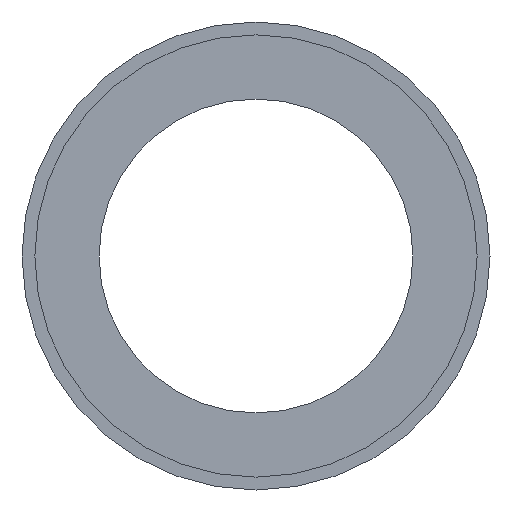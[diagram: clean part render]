
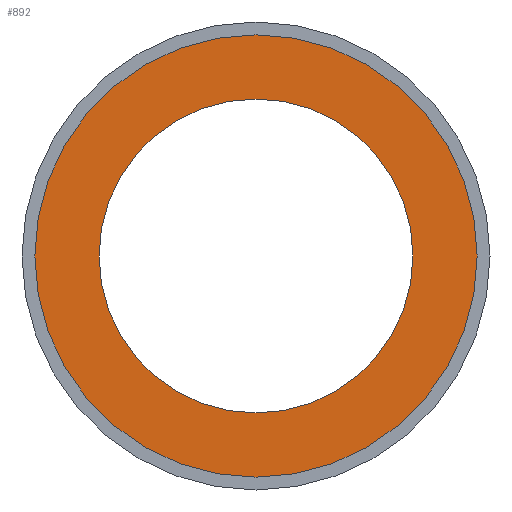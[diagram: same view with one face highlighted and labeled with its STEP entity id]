
A CAD part, front view. The second image highlights one B-rep face of the part: STEP entity #892.
In plain terms, the highlighted planar face has unit normal (0, -1, 0).
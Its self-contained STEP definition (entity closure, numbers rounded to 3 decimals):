
#69 = AXIS2_PLACEMENT_3D ( 'NONE', #301, #2652, #3212 ) ;
#137 = AXIS2_PLACEMENT_3D ( 'NONE', #2334, #1740, #2394 ) ;
#301 = CARTESIAN_POINT ( 'NONE',  ( 0., -22., 0. ) ) ;
#323 = VERTEX_POINT ( 'NONE', #599 ) ;
#488 = CARTESIAN_POINT ( 'NONE',  ( 0., -22., 0. ) ) ;
#599 = CARTESIAN_POINT ( 'NONE',  ( 0., -22., -77.5 ) ) ;
#641 = ORIENTED_EDGE ( 'NONE', *, *, #2330, .T. ) ;
#768 = ORIENTED_EDGE ( 'NONE', *, *, #1275, .T. ) ;
#832 = VERTEX_POINT ( 'NONE', #914 ) ;
#892 = ADVANCED_FACE ( 'NONE', ( #1644, #2088 ), #1207, .F. ) ;
#914 = CARTESIAN_POINT ( 'NONE',  ( 0., -22., 55. ) ) ;
#955 = EDGE_LOOP ( 'NONE', ( #3511, #3166 ) ) ;
#1070 = DIRECTION ( 'NONE',  ( 0., -1., 0. ) ) ;
#1073 = AXIS2_PLACEMENT_3D ( 'NONE', #488, #1070, #2511 ) ;
#1207 = PLANE ( 'NONE',  #137 ) ;
#1208 = CARTESIAN_POINT ( 'NONE',  ( 0., -22., 0. ) ) ;
#1236 = AXIS2_PLACEMENT_3D ( 'NONE', #1208, #3490, #2674 ) ;
#1275 = EDGE_CURVE ( 'NONE', #323, #2889, #3483, .T. ) ;
#1370 = DIRECTION ( 'NONE',  ( 0., 0., -1. ) ) ;
#1511 = EDGE_CURVE ( 'NONE', #832, #3547, #2183, .T. ) ;
#1644 = FACE_BOUND ( 'NONE', #955, .T. ) ;
#1650 = DIRECTION ( 'NONE',  ( 0., -1., 0. ) ) ;
#1740 = DIRECTION ( 'NONE',  ( 0., 1., 0. ) ) ;
#1976 = EDGE_LOOP ( 'NONE', ( #768, #641 ) ) ;
#2088 = FACE_OUTER_BOUND ( 'NONE', #1976, .T. ) ;
#2183 = CIRCLE ( 'NONE', #1236, 55. ) ;
#2330 = EDGE_CURVE ( 'NONE', #2889, #323, #3125, .T. ) ;
#2334 = CARTESIAN_POINT ( 'NONE',  ( 0., -22., 55. ) ) ;
#2394 = DIRECTION ( 'NONE',  ( 0., 0., 1. ) ) ;
#2461 = EDGE_CURVE ( 'NONE', #3547, #832, #3394, .T. ) ;
#2511 = DIRECTION ( 'NONE',  ( 0., 0., -1. ) ) ;
#2652 = DIRECTION ( 'NONE',  ( 0., -1., 0. ) ) ;
#2674 = DIRECTION ( 'NONE',  ( 0., 0., -1. ) ) ;
#2782 = CARTESIAN_POINT ( 'NONE',  ( 0., -22., -55. ) ) ;
#2828 = CARTESIAN_POINT ( 'NONE',  ( 0., -22., 0. ) ) ;
#2840 = CARTESIAN_POINT ( 'NONE',  ( 0., -22., 77.5 ) ) ;
#2877 = AXIS2_PLACEMENT_3D ( 'NONE', #2828, #1650, #1370 ) ;
#2889 = VERTEX_POINT ( 'NONE', #2840 ) ;
#3125 = CIRCLE ( 'NONE', #1073, 77.5 ) ;
#3166 = ORIENTED_EDGE ( 'NONE', *, *, #1511, .F. ) ;
#3212 = DIRECTION ( 'NONE',  ( 0., 0., -1. ) ) ;
#3394 = CIRCLE ( 'NONE', #69, 55. ) ;
#3483 = CIRCLE ( 'NONE', #2877, 77.5 ) ;
#3490 = DIRECTION ( 'NONE',  ( 0., -1., 0. ) ) ;
#3511 = ORIENTED_EDGE ( 'NONE', *, *, #2461, .F. ) ;
#3547 = VERTEX_POINT ( 'NONE', #2782 ) ;
